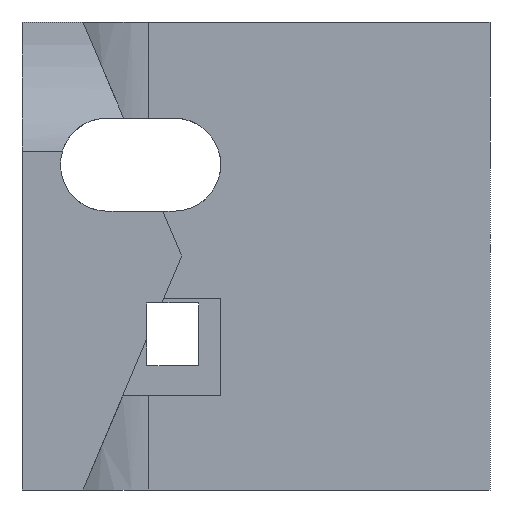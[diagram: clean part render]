
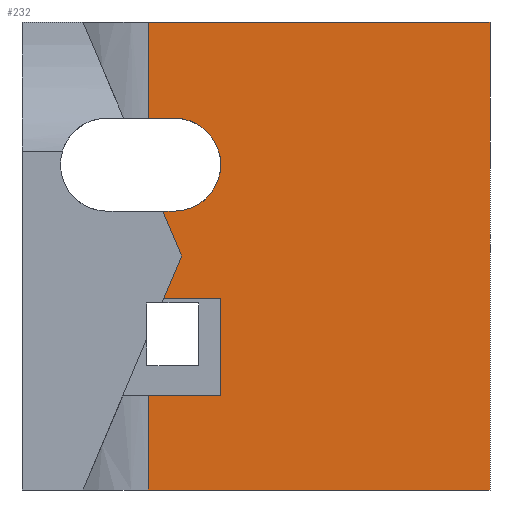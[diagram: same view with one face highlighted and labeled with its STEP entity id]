
A CAD part, front view. The second image highlights one B-rep face of the part: STEP entity #232.
In plain terms, the highlighted planar face has unit normal (0, -1, 0).
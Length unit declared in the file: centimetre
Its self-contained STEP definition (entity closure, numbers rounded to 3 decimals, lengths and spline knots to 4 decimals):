
#3 = LINE ( 'NONE', #617, #1228 ) ;
#20 = DIRECTION ( 'NONE',  ( 0., 0., -1. ) ) ;
#22 = CARTESIAN_POINT ( 'NONE',  ( 270.2668, 0., 1000. ) ) ;
#61 = VECTOR ( 'NONE', #323, 100. ) ;
#73 = VERTEX_POINT ( 'NONE', #1332 ) ;
#76 = CARTESIAN_POINT ( 'NONE',  ( 189.4603, 0., 408.5872 ) ) ;
#82 = ORIENTED_EDGE ( 'NONE', *, *, #504, .F. ) ;
#84 = CARTESIAN_POINT ( 'NONE',  ( 0., 0., 0. ) ) ;
#90 = EDGE_CURVE ( 'NONE', #1254, #345, #1459, .T. ) ;
#92 = ORIENTED_EDGE ( 'NONE', *, *, #614, .F. ) ;
#138 = CARTESIAN_POINT ( 'NONE',  ( 189.4603, 0., 200.8603 ) ) ;
#159 = DIRECTION ( 'NONE',  ( 0., 0., 1. ) ) ;
#185 = DIRECTION ( 'NONE',  ( 0., 0., 1. ) ) ;
#194 = LINE ( 'NONE', #560, #1263 ) ;
#195 = ORIENTED_EDGE ( 'NONE', *, *, #301, .T. ) ;
#202 = CARTESIAN_POINT ( 'NONE',  ( 341.1618, 0., 500. ) ) ;
#232 = ADVANCED_FACE ( 'NONE', ( #423 ), #921, .F. ) ;
#236 = ORIENTED_EDGE ( 'NONE', *, *, #551, .F. ) ;
#255 = VECTOR ( 'NONE', #349, 100. ) ;
#269 = CARTESIAN_POINT ( 'NONE',  ( 325.3304, 0., 595.892 ) ) ;
#288 = VECTOR ( 'NONE', #819, 100. ) ;
#301 = EDGE_CURVE ( 'NONE', #73, #1576, #449, .T. ) ;
#306 = ORIENTED_EDGE ( 'NONE', *, *, #1458, .F. ) ;
#310 = ORIENTED_EDGE ( 'NONE', *, *, #849, .T. ) ;
#316 = CARTESIAN_POINT ( 'NONE',  ( 1000., 0., 1000. ) ) ;
#323 = DIRECTION ( 'NONE',  ( 1., 0., 0. ) ) ;
#332 = CARTESIAN_POINT ( 'NONE',  ( 302.6622, 0., 408.5872 ) ) ;
#336 = VERTEX_POINT ( 'NONE', #316 ) ;
#338 = DIRECTION ( 'NONE',  ( 1., 0., 0. ) ) ;
#345 = VERTEX_POINT ( 'NONE', #1573 ) ;
#349 = DIRECTION ( 'NONE',  ( 0., 0., -1. ) ) ;
#377 = EDGE_CURVE ( 'NONE', #1116, #861, #1181, .T. ) ;
#403 = CARTESIAN_POINT ( 'NONE',  ( 270.2668, 0., 794.452 ) ) ;
#412 = EDGE_CURVE ( 'NONE', #1160, #1173, #1034, .T. ) ;
#420 = LINE ( 'NONE', #1128, #1317 ) ;
#423 = FACE_OUTER_BOUND ( 'NONE', #1051, .T. ) ;
#449 = LINE ( 'NONE', #558, #1422 ) ;
#480 = CARTESIAN_POINT ( 'NONE',  ( 325.3304, 0., 695.172 ) ) ;
#491 = CARTESIAN_POINT ( 'NONE',  ( 181.4378, 0., 595.892 ) ) ;
#504 = EDGE_CURVE ( 'NONE', #336, #1411, #1454, .T. ) ;
#509 = AXIS2_PLACEMENT_3D ( 'NONE', #773, #1259, #159 ) ;
#511 = DIRECTION ( 'NONE',  ( 1., 0., 0. ) ) ;
#551 = EDGE_CURVE ( 'NONE', #1173, #1314, #3, .T. ) ;
#557 = ORIENTED_EDGE ( 'NONE', *, *, #377, .F. ) ;
#558 = CARTESIAN_POINT ( 'NONE',  ( 270.2668, 0., 1000. ) ) ;
#560 = CARTESIAN_POINT ( 'NONE',  ( 424.815, 0., 200.8603 ) ) ;
#570 = EDGE_CURVE ( 'NONE', #345, #1160, #1600, .T. ) ;
#614 = EDGE_CURVE ( 'NONE', #1366, #336, #774, .T. ) ;
#617 = CARTESIAN_POINT ( 'NONE',  ( 325.3304, 0., 794.452 ) ) ;
#660 = CARTESIAN_POINT ( 'NONE',  ( 424.815, 0., 200.8603 ) ) ;
#664 = LINE ( 'NONE', #202, #288 ) ;
#718 = LINE ( 'NONE', #138, #805 ) ;
#719 = DIRECTION ( 'NONE',  ( 0., -1., 0. ) ) ;
#732 = CARTESIAN_POINT ( 'NONE',  ( 130.5811, 0., 1000. ) ) ;
#754 = DIRECTION ( 'NONE',  ( 1., 0., 0. ) ) ;
#773 = CARTESIAN_POINT ( 'NONE',  ( 0., 0., 1000. ) ) ;
#774 = LINE ( 'NONE', #1225, #833 ) ;
#775 = ORIENTED_EDGE ( 'NONE', *, *, #1432, .F. ) ;
#801 = VECTOR ( 'NONE', #1324, 100. ) ;
#805 = VECTOR ( 'NONE', #338, 100. ) ;
#809 = DIRECTION ( 'NONE',  ( -1., 0., 0. ) ) ;
#819 = DIRECTION ( 'NONE',  ( 0.388, 0., 0.922 ) ) ;
#827 = ORIENTED_EDGE ( 'NONE', *, *, #1103, .F. ) ;
#832 = CARTESIAN_POINT ( 'NONE',  ( 424.815, 0., 408.5872 ) ) ;
#833 = VECTOR ( 'NONE', #511, 100. ) ;
#849 = EDGE_CURVE ( 'NONE', #1576, #1411, #1398, .T. ) ;
#861 = VERTEX_POINT ( 'NONE', #332 ) ;
#906 = ORIENTED_EDGE ( 'NONE', *, *, #412, .F. ) ;
#921 = PLANE ( 'NONE',  #509 ) ;
#1021 = ORIENTED_EDGE ( 'NONE', *, *, #1562, .T. ) ;
#1033 = ORIENTED_EDGE ( 'NONE', *, *, #570, .F. ) ;
#1034 = CIRCLE ( 'NONE', #1231, 99.28 ) ;
#1051 = EDGE_LOOP ( 'NONE', ( #1021, #236, #906, #1033, #1351, #306, #557, #775, #827, #195, #310, #82, #92 ) ) ;
#1089 = CARTESIAN_POINT ( 'NONE',  ( 1000., 0., 1000. ) ) ;
#1103 = EDGE_CURVE ( 'NONE', #73, #1209, #718, .T. ) ;
#1107 = DIRECTION ( 'NONE',  ( -1., 0., 0. ) ) ;
#1116 = VERTEX_POINT ( 'NONE', #832 ) ;
#1128 = CARTESIAN_POINT ( 'NONE',  ( 270.2668, 0., 1000. ) ) ;
#1134 = VECTOR ( 'NONE', #809, 100. ) ;
#1136 = CARTESIAN_POINT ( 'NONE',  ( 325.3304, 0., 794.452 ) ) ;
#1159 = CARTESIAN_POINT ( 'NONE',  ( 1000., 0., 0. ) ) ;
#1160 = VERTEX_POINT ( 'NONE', #269 ) ;
#1173 = VERTEX_POINT ( 'NONE', #1136 ) ;
#1181 = LINE ( 'NONE', #76, #1134 ) ;
#1209 = VERTEX_POINT ( 'NONE', #660 ) ;
#1225 = CARTESIAN_POINT ( 'NONE',  ( 0., 0., 1000. ) ) ;
#1228 = VECTOR ( 'NONE', #1107, 100. ) ;
#1231 = AXIS2_PLACEMENT_3D ( 'NONE', #480, #719, #1334 ) ;
#1254 = VERTEX_POINT ( 'NONE', #1257 ) ;
#1257 = CARTESIAN_POINT ( 'NONE',  ( 341.1618, 0., 500. ) ) ;
#1259 = DIRECTION ( 'NONE',  ( 0., 1., 0. ) ) ;
#1263 = VECTOR ( 'NONE', #185, 100. ) ;
#1286 = DIRECTION ( 'NONE',  ( 0., 0., -1. ) ) ;
#1314 = VERTEX_POINT ( 'NONE', #403 ) ;
#1316 = VECTOR ( 'NONE', #754, 100. ) ;
#1317 = VECTOR ( 'NONE', #20, 100. ) ;
#1324 = DIRECTION ( 'NONE',  ( -0.388, 0., 0.922 ) ) ;
#1332 = CARTESIAN_POINT ( 'NONE',  ( 270.2668, 0., 200.8603 ) ) ;
#1334 = DIRECTION ( 'NONE',  ( 0., 0., -1. ) ) ;
#1351 = ORIENTED_EDGE ( 'NONE', *, *, #90, .F. ) ;
#1366 = VERTEX_POINT ( 'NONE', #22 ) ;
#1398 = LINE ( 'NONE', #84, #61 ) ;
#1411 = VERTEX_POINT ( 'NONE', #1159 ) ;
#1422 = VECTOR ( 'NONE', #1286, 100. ) ;
#1432 = EDGE_CURVE ( 'NONE', #1209, #1116, #194, .T. ) ;
#1454 = LINE ( 'NONE', #1089, #255 ) ;
#1458 = EDGE_CURVE ( 'NONE', #861, #1254, #664, .T. ) ;
#1459 = LINE ( 'NONE', #732, #801 ) ;
#1503 = CARTESIAN_POINT ( 'NONE',  ( 270.2668, 0., 0. ) ) ;
#1562 = EDGE_CURVE ( 'NONE', #1366, #1314, #420, .T. ) ;
#1573 = CARTESIAN_POINT ( 'NONE',  ( 300.7758, 0., 595.892 ) ) ;
#1576 = VERTEX_POINT ( 'NONE', #1503 ) ;
#1600 = LINE ( 'NONE', #491, #1316 ) ;
